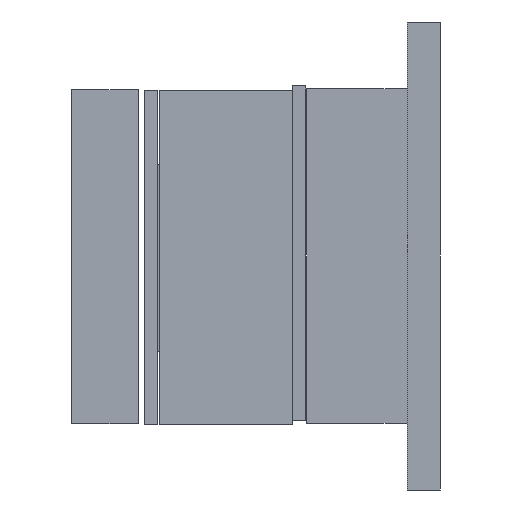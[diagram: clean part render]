
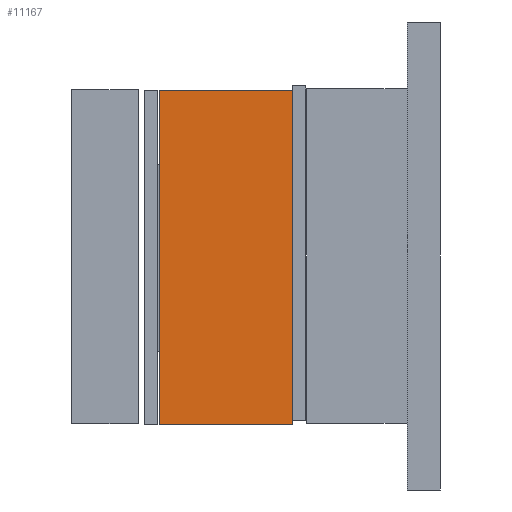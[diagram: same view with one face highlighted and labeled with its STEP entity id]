
A CAD part, left-side view. The second image highlights one B-rep face of the part: STEP entity #11167.
In plain terms, the highlighted planar face has unit normal (-1, 0, 0).
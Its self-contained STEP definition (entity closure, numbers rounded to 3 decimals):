
#299 = DIRECTION ( 'NONE',  ( 0., 0., 1. ) ) ;
#708 = ORIENTED_EDGE ( 'NONE', *, *, #10777, .F. ) ;
#830 = EDGE_CURVE ( 'NONE', #12955, #10865, #13124, .T. ) ;
#1220 = CARTESIAN_POINT ( 'NONE',  ( -40., 10., -50. ) ) ;
#1504 = CARTESIAN_POINT ( 'NONE',  ( -40., 10., 0. ) ) ;
#1515 = VECTOR ( 'NONE', #11565, 1000. ) ;
#2376 = ORIENTED_EDGE ( 'NONE', *, *, #8130, .T. ) ;
#2707 = EDGE_LOOP ( 'NONE', ( #12209, #708, #3466, #2376 ) ) ;
#3466 = ORIENTED_EDGE ( 'NONE', *, *, #9800, .T. ) ;
#3541 = CARTESIAN_POINT ( 'NONE',  ( -40., 10., -50. ) ) ;
#4794 = LINE ( 'NONE', #13531, #7562 ) ;
#4869 = AXIS2_PLACEMENT_3D ( 'NONE', #1220, #10021, #299 ) ;
#5543 = PLANE ( 'NONE',  #4869 ) ;
#6153 = VECTOR ( 'NONE', #13470, 1000. ) ;
#6990 = CARTESIAN_POINT ( 'NONE',  ( -40., 10., -50. ) ) ;
#7294 = LINE ( 'NONE', #8149, #1515 ) ;
#7562 = VECTOR ( 'NONE', #11545, 1000. ) ;
#7775 = VERTEX_POINT ( 'NONE', #7840 ) ;
#7840 = CARTESIAN_POINT ( 'NONE',  ( -40., -10., -50. ) ) ;
#8130 = EDGE_CURVE ( 'NONE', #7775, #10865, #7294, .T. ) ;
#8149 = CARTESIAN_POINT ( 'NONE',  ( -40., -10., -50. ) ) ;
#8178 = LINE ( 'NONE', #6990, #10402 ) ;
#8375 = CARTESIAN_POINT ( 'NONE',  ( -40., -10., 0. ) ) ;
#8580 = VERTEX_POINT ( 'NONE', #3541 ) ;
#8999 = FACE_OUTER_BOUND ( 'NONE', #2707, .T. ) ;
#9141 = CARTESIAN_POINT ( 'NONE',  ( -40., 10., 0. ) ) ;
#9800 = EDGE_CURVE ( 'NONE', #8580, #7775, #4794, .T. ) ;
#10021 = DIRECTION ( 'NONE',  ( -1., 0., 0. ) ) ;
#10402 = VECTOR ( 'NONE', #11375, 1000. ) ;
#10777 = EDGE_CURVE ( 'NONE', #8580, #12955, #8178, .T. ) ;
#10865 = VERTEX_POINT ( 'NONE', #8375 ) ;
#11167 = ADVANCED_FACE ( 'NONE', ( #8999 ), #5543, .T. ) ;
#11375 = DIRECTION ( 'NONE',  ( 0., 0., 1. ) ) ;
#11545 = DIRECTION ( 'NONE',  ( 0., -1., 0. ) ) ;
#11565 = DIRECTION ( 'NONE',  ( 0., 0., 1. ) ) ;
#12209 = ORIENTED_EDGE ( 'NONE', *, *, #830, .F. ) ;
#12955 = VERTEX_POINT ( 'NONE', #9141 ) ;
#13124 = LINE ( 'NONE', #1504, #6153 ) ;
#13470 = DIRECTION ( 'NONE',  ( 0., -1., 0. ) ) ;
#13531 = CARTESIAN_POINT ( 'NONE',  ( -40., 10., -50. ) ) ;
